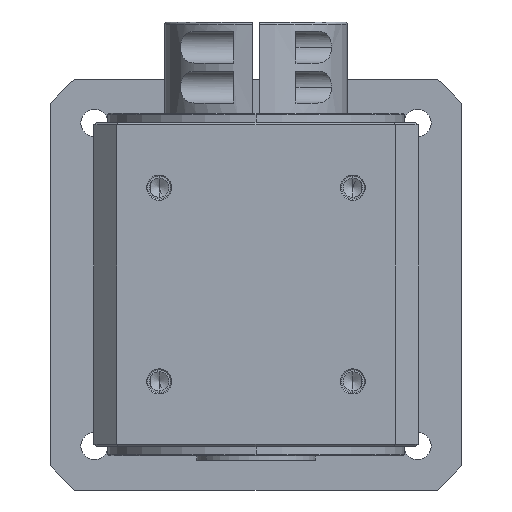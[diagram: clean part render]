
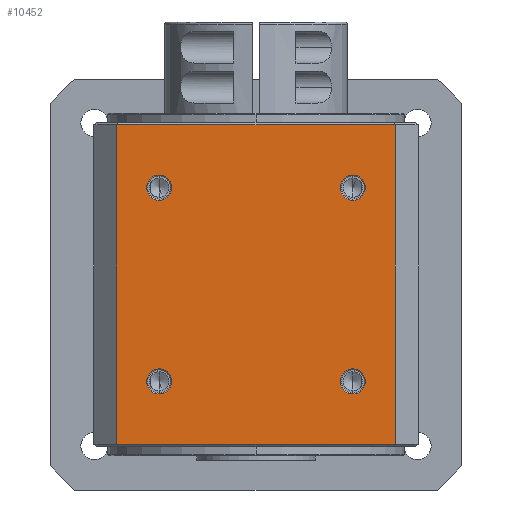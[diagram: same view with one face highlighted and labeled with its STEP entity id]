
A CAD part, left-side view. The second image highlights one B-rep face of the part: STEP entity #10452.
In plain terms, the highlighted planar face has unit normal (-1, 0, 0).
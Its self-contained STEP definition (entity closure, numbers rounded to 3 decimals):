
#424 = DIRECTION ( 'NONE',  ( 0., 1., 0. ) ) ;
#425 = VECTOR ( 'NONE', #424, 1000. ) ;
#426 = CARTESIAN_POINT ( 'NONE',  ( -71., 61., 145. ) ) ;
#427 = LINE ( 'NONE', #426, #425 ) ;
#475 = CARTESIAN_POINT ( 'NONE',  ( -71., -61., 145. ) ) ;
#476 = CARTESIAN_POINT ( 'NONE',  ( -71., -61., 5. ) ) ;
#477 = DIRECTION ( 'NONE',  ( 0., 0., 1. ) ) ;
#478 = VECTOR ( 'NONE', #477, 1000. ) ;
#479 = CARTESIAN_POINT ( 'NONE',  ( -71., -61., 150. ) ) ;
#480 = LINE ( 'NONE', #479, #478 ) ;
#518 = DIRECTION ( 'NONE',  ( 0., -1., 0. ) ) ;
#519 = VECTOR ( 'NONE', #518, 1000. ) ;
#520 = CARTESIAN_POINT ( 'NONE',  ( -71., -61., 5. ) ) ;
#521 = LINE ( 'NONE', #520, #519 ) ;
#2747 = EDGE_CURVE ( 'NONE', #2774, #2753, #45967, .T. ) ;
#2753 = VERTEX_POINT ( 'NONE', #46017 ) ;
#2774 = VERTEX_POINT ( 'NONE', #46045 ) ;
#3208 = EDGE_LOOP ( 'NONE', ( #40798, #40943 ) ) ;
#3223 = ORIENTED_EDGE ( 'NONE', *, *, #3287, .F. ) ;
#3260 = VERTEX_POINT ( 'NONE', #46771 ) ;
#3287 = EDGE_CURVE ( 'NONE', #3260, #3288, #46844, .T. ) ;
#3288 = VERTEX_POINT ( 'NONE', #46839 ) ;
#3299 = VERTEX_POINT ( 'NONE', #46880 ) ;
#3305 = EDGE_CURVE ( 'NONE', #3299, #3312, #46873, .T. ) ;
#3312 = VERTEX_POINT ( 'NONE', #46854 ) ;
#3539 = ORIENTED_EDGE ( 'NONE', *, *, #3540, .T. ) ;
#3540 = EDGE_CURVE ( 'NONE', #3585, #41201, #427, .T. ) ;
#3581 = EDGE_CURVE ( 'NONE', #3582, #3585, #480, .T. ) ;
#3582 = VERTEX_POINT ( 'NONE', #476 ) ;
#3585 = VERTEX_POINT ( 'NONE', #475 ) ;
#3593 = ORIENTED_EDGE ( 'NONE', *, *, #3581, .T. ) ;
#3596 = EDGE_CURVE ( 'NONE', #41202, #3582, #521, .T. ) ;
#10388 = EDGE_CURVE ( 'NONE', #3288, #3260, #23535, .T. ) ;
#10444 = EDGE_CURVE ( 'NONE', #26495, #24244, #23743, .T. ) ;
#10450 = ORIENTED_EDGE ( 'NONE', *, *, #10444, .F. ) ;
#10451 = EDGE_LOOP ( 'NONE', ( #10461, #3223 ) ) ;
#10452 = ADVANCED_FACE ( 'NONE', ( #23738, #23736, #23772, #23771, #23770 ), #23769, .F. ) ;
#10454 = EDGE_LOOP ( 'NONE', ( #10450, #10459 ) ) ;
#10459 = ORIENTED_EDGE ( 'NONE', *, *, #24390, .F. ) ;
#10461 = ORIENTED_EDGE ( 'NONE', *, *, #10388, .F. ) ;
#23531 = DIRECTION ( 'NONE',  ( 0., 0., 1. ) ) ;
#23532 = DIRECTION ( 'NONE',  ( -1., 0., 0. ) ) ;
#23533 = CARTESIAN_POINT ( 'NONE',  ( -71., -42.426, 32.574 ) ) ;
#23534 = AXIS2_PLACEMENT_3D ( 'NONE', #23533, #23532, #23531 ) ;
#23535 = CIRCLE ( 'NONE', #23534, 5.5 ) ;
#23736 = FACE_BOUND ( 'NONE', #10451, .T. ) ;
#23738 = FACE_BOUND ( 'NONE', #10454, .T. ) ;
#23739 = DIRECTION ( 'NONE',  ( 0., 0., 1. ) ) ;
#23740 = DIRECTION ( 'NONE',  ( -1., 0., 0. ) ) ;
#23741 = CARTESIAN_POINT ( 'NONE',  ( -71., 42.426, 32.574 ) ) ;
#23742 = AXIS2_PLACEMENT_3D ( 'NONE', #23741, #23740, #23739 ) ;
#23743 = CIRCLE ( 'NONE', #23742, 5.5 ) ;
#23765 = DIRECTION ( 'NONE',  ( 0., 0., -1. ) ) ;
#23766 = DIRECTION ( 'NONE',  ( 1., 0., 0. ) ) ;
#23767 = CARTESIAN_POINT ( 'NONE',  ( -71., 71., 150. ) ) ;
#23768 = AXIS2_PLACEMENT_3D ( 'NONE', #23767, #23766, #23765 ) ;
#23769 = PLANE ( 'NONE',  #23768 ) ;
#23770 = FACE_OUTER_BOUND ( 'NONE', #41129, .T. ) ;
#23771 = FACE_BOUND ( 'NONE', #40605, .T. ) ;
#23772 = FACE_BOUND ( 'NONE', #3208, .T. ) ;
#24244 = VERTEX_POINT ( 'NONE', #27169 ) ;
#24390 = EDGE_CURVE ( 'NONE', #24244, #26495, #27163, .T. ) ;
#26495 = VERTEX_POINT ( 'NONE', #27395 ) ;
#27159 = DIRECTION ( 'NONE',  ( 0., 0., 1. ) ) ;
#27160 = DIRECTION ( 'NONE',  ( -1., 0., 0. ) ) ;
#27161 = CARTESIAN_POINT ( 'NONE',  ( -71., 42.426, 32.574 ) ) ;
#27162 = AXIS2_PLACEMENT_3D ( 'NONE', #27161, #27160, #27159 ) ;
#27163 = CIRCLE ( 'NONE', #27162, 5.5 ) ;
#27169 = CARTESIAN_POINT ( 'NONE',  ( -71., 42.426, 27.074 ) ) ;
#27395 = CARTESIAN_POINT ( 'NONE',  ( -71., 42.426, 38.074 ) ) ;
#36358 = DIRECTION ( 'NONE',  ( 0., 0., 1. ) ) ;
#36359 = DIRECTION ( 'NONE',  ( -1., 0., 0. ) ) ;
#36360 = CARTESIAN_POINT ( 'NONE',  ( -71., -42.426, 117.426 ) ) ;
#36361 = AXIS2_PLACEMENT_3D ( 'NONE', #36360, #36359, #36358 ) ;
#36362 = CIRCLE ( 'NONE', #36361, 5.5 ) ;
#36719 = DIRECTION ( 'NONE',  ( 0., 0., 1. ) ) ;
#36720 = DIRECTION ( 'NONE',  ( -1., 0., 0. ) ) ;
#36721 = CARTESIAN_POINT ( 'NONE',  ( -71., 42.426, 117.426 ) ) ;
#36722 = AXIS2_PLACEMENT_3D ( 'NONE', #36721, #36720, #36719 ) ;
#36723 = CIRCLE ( 'NONE', #36722, 5.5 ) ;
#36923 = DIRECTION ( 'NONE',  ( 0., 0., -1. ) ) ;
#36924 = VECTOR ( 'NONE', #36923, 1000. ) ;
#36925 = CARTESIAN_POINT ( 'NONE',  ( -71., 61., 150. ) ) ;
#36926 = LINE ( 'NONE', #36925, #36924 ) ;
#36970 = CARTESIAN_POINT ( 'NONE',  ( -71., 61., 5. ) ) ;
#36975 = CARTESIAN_POINT ( 'NONE',  ( -71., 61., 145. ) ) ;
#40605 = EDGE_LOOP ( 'NONE', ( #41094, #41128 ) ) ;
#40719 = ORIENTED_EDGE ( 'NONE', *, *, #3596, .T. ) ;
#40798 = ORIENTED_EDGE ( 'NONE', *, *, #40875, .F. ) ;
#40875 = EDGE_CURVE ( 'NONE', #3312, #3299, #36362, .T. ) ;
#40943 = ORIENTED_EDGE ( 'NONE', *, *, #3305, .F. ) ;
#41072 = EDGE_CURVE ( 'NONE', #2753, #2774, #36723, .T. ) ;
#41094 = ORIENTED_EDGE ( 'NONE', *, *, #41072, .F. ) ;
#41128 = ORIENTED_EDGE ( 'NONE', *, *, #2747, .F. ) ;
#41129 = EDGE_LOOP ( 'NONE', ( #41130, #40719, #3593, #3539 ) ) ;
#41130 = ORIENTED_EDGE ( 'NONE', *, *, #41189, .T. ) ;
#41189 = EDGE_CURVE ( 'NONE', #41201, #41202, #36926, .T. ) ;
#41201 = VERTEX_POINT ( 'NONE', #36975 ) ;
#41202 = VERTEX_POINT ( 'NONE', #36970 ) ;
#45692 = DIRECTION ( 'NONE',  ( -1., 0., 0. ) ) ;
#45694 = DIRECTION ( 'NONE',  ( 0., 0., 1. ) ) ;
#45960 = CARTESIAN_POINT ( 'NONE',  ( -71., 42.426, 117.426 ) ) ;
#45961 = AXIS2_PLACEMENT_3D ( 'NONE', #45960, #45692, #45694 ) ;
#45967 = CIRCLE ( 'NONE', #45961, 5.5 ) ;
#46017 = CARTESIAN_POINT ( 'NONE',  ( -71., 42.426, 122.926 ) ) ;
#46045 = CARTESIAN_POINT ( 'NONE',  ( -71., 42.426, 111.926 ) ) ;
#46771 = CARTESIAN_POINT ( 'NONE',  ( -71., -42.426, 27.074 ) ) ;
#46839 = CARTESIAN_POINT ( 'NONE',  ( -71., -42.426, 38.074 ) ) ;
#46840 = DIRECTION ( 'NONE',  ( 0., 0., 1. ) ) ;
#46841 = DIRECTION ( 'NONE',  ( -1., 0., 0. ) ) ;
#46842 = CARTESIAN_POINT ( 'NONE',  ( -71., -42.426, 32.574 ) ) ;
#46843 = AXIS2_PLACEMENT_3D ( 'NONE', #46842, #46841, #46840 ) ;
#46844 = CIRCLE ( 'NONE', #46843, 5.5 ) ;
#46854 = CARTESIAN_POINT ( 'NONE',  ( -71., -42.426, 122.926 ) ) ;
#46869 = DIRECTION ( 'NONE',  ( 0., 0., 1. ) ) ;
#46870 = DIRECTION ( 'NONE',  ( -1., 0., 0. ) ) ;
#46871 = CARTESIAN_POINT ( 'NONE',  ( -71., -42.426, 117.426 ) ) ;
#46872 = AXIS2_PLACEMENT_3D ( 'NONE', #46871, #46870, #46869 ) ;
#46873 = CIRCLE ( 'NONE', #46872, 5.5 ) ;
#46880 = CARTESIAN_POINT ( 'NONE',  ( -71., -42.426, 111.926 ) ) ;
